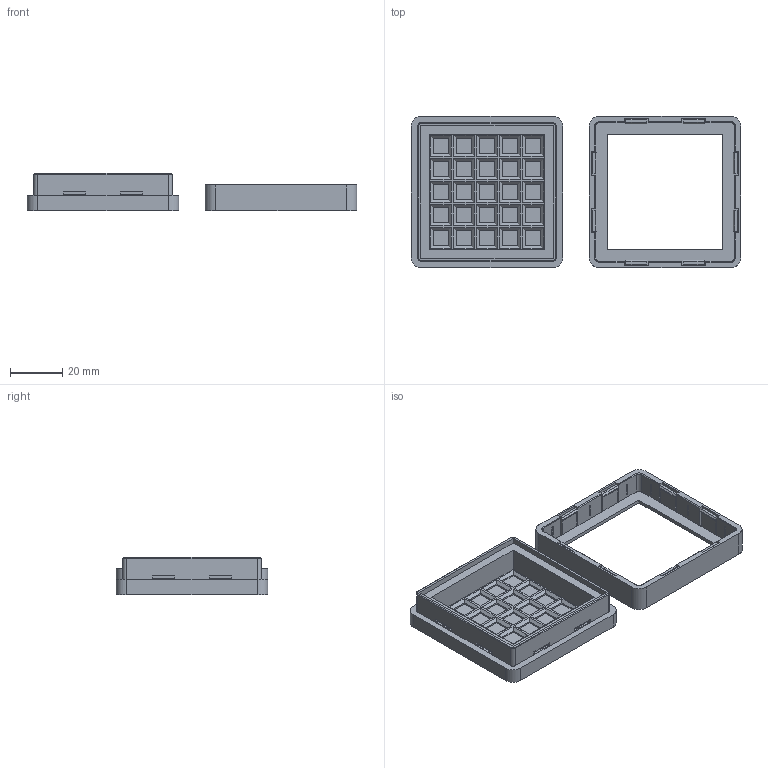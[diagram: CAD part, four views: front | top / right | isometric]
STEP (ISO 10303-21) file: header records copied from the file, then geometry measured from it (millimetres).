
FILE_DESCRIPTION(('FreeCAD Model'),'2;1');
FILE_NAME('Open CASCADE Shape Model','2026-10-03T19:08:45',('Author'),( ''),'Open CASCADE STEP processor 7.8','FreeCAD','Unknown');
FILE_SCHEMA(('AUTOMOTIVE_DESIGN { 1 0 10303 214 1 1 1 1 }'));
Length unit declared in the file: millimetre
Products named in the file (3): StrongLockV2_Print_Layout; Base; Lid
Assembly tree (2 placements, depth 2):
  StrongLockV2_Print_Layout
    Base
    Lid
Bounding box: 126 x 58 x 14.2 mm (x, y, z)
Volume: 24114.4 mm3; surface area: 20986.4 mm2
Topology: 2 solids, 2 shells, 690 faces, 1696 edges, 1084 vertices
Faces by surface type: bspline 690
Entity records: 19064 total; most frequent: CARTESIAN_POINT 8319, ORIENTED_EDGE 3392, EDGE_CURVE 1696, B_SPLINE_CURVE_WITH_KNOTS 1640, VERTEX_POINT 1084, FACE_BOUND 766, EDGE_LOOP 766, ADVANCED_FACE 690
